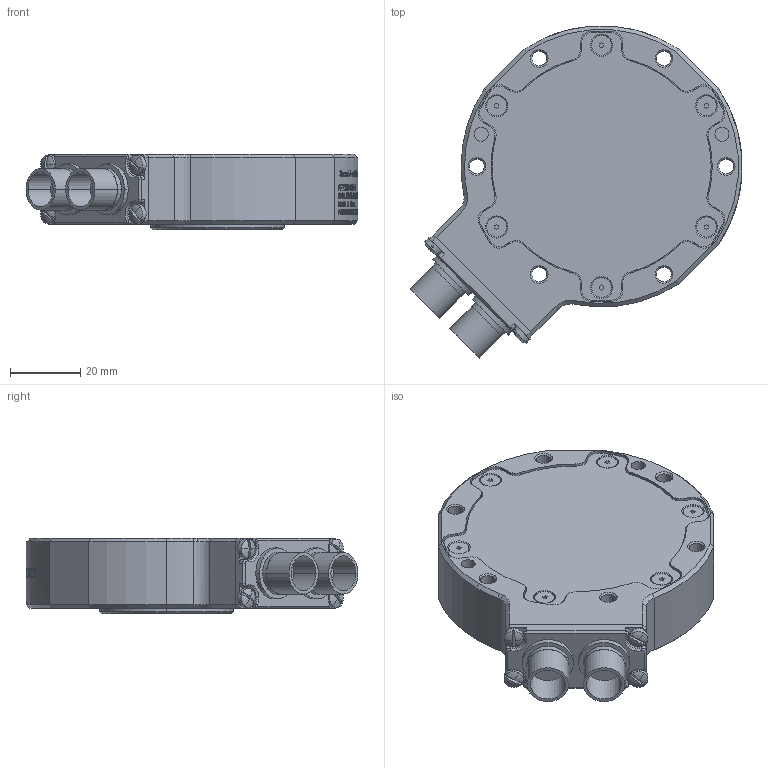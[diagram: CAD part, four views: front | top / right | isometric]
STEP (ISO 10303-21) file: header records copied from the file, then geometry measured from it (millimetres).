
FILE_DESCRIPTION (( 'STEP AP203' ), '1' );
FILE_NAME ('AFT200-D80-EC_寡ん辨.STEP', '2024-08-13T01:55:38', ( '' ), ( '' ), 'SwSTEP 2.0', 'SolidWorks 2021', '' );
FILE_SCHEMA (( 'CONFIG_CONTROL_DESIGN' ));
Length unit declared in the file: millimetre
Products named in the file (10): AM21AA-AFT80-A101-7_頂睡瓣遴賅筐; fillister head screw_ks_KS 1021 F - M3 x 10-N; AFT200-D80-EC_寡ん辨; FHB_M3_3; socket head cap screw_ks_KS 1003 - M3 x 10 x 10-N; AM21AA-AFT80-A104-2; AM21AA-AFT80-A103-3; AM21AA-AFT80-A102-3_頂睡瓣遴賅筐; SZ-3N; G40F1C-P09MCC0
Assembly tree (31 placements, depth 2):
  AFT200-D80-EC_寡ん辨
    AM21AA-AFT80-A101-7_頂睡瓣遴賅筐
    AM21AA-AFT80-A103-3
    AM21AA-AFT80-A102-3_頂睡瓣遴賅筐
    AM21AA-AFT80-A104-2
    G40F1C-P09MCC0  x2
    FHB_M3_3  x13
    socket head cap screw_ks_KS 1003 - M3 x 10 x 10-N  x4
    SZ-3N  x4
    fillister head screw_ks_KS 1021 F - M3 x 10-N  x4
Bounding box: 94.55 x 94.55 x 21.5 mm (x, y, z)
Volume: 119074.2 mm3; surface area: 45319.8 mm2
Topology: 31 solids, 31 shells, 2763 faces, 7190 edges, 4669 vertices
Faces by surface type: bspline 1006, plane 839, cylinder 667, cone 195, torus 40, sphere 16
Entity records: 156011 total; most frequent: CARTESIAN_POINT 105409, ORIENTED_EDGE 12032, DIRECTION 7156, EDGE_CURVE 6016, VERTEX_POINT 3958, B_SPLINE_CURVE_WITH_KNOTS 2843, AXIS2_PLACEMENT_3D 2758, EDGE_LOOP 2514
